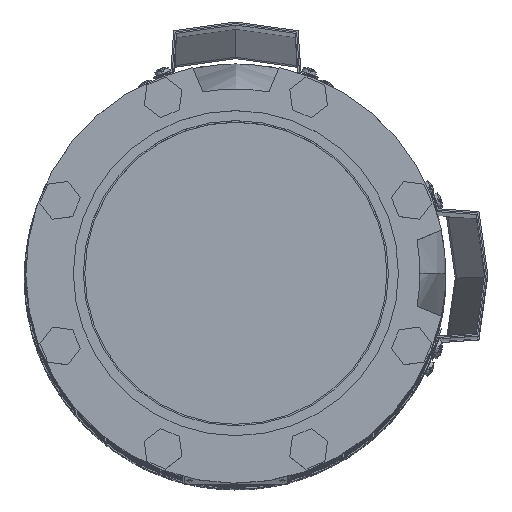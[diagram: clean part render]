
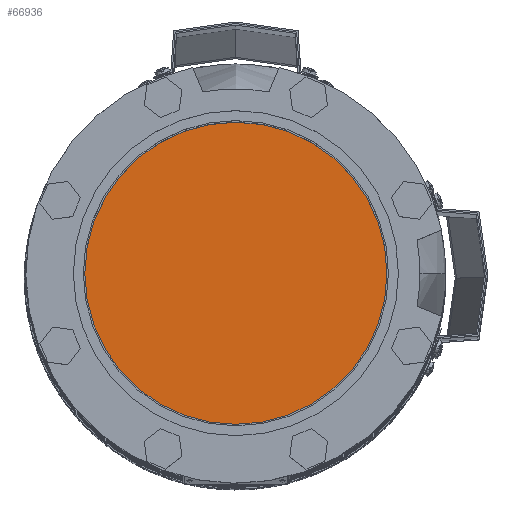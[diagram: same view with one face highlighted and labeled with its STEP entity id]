
A CAD part, top view. The second image highlights one B-rep face of the part: STEP entity #66936.
In plain terms, the highlighted planar face has unit normal (0, 0, 1) as drawn and (0, 1, 0) by its records, which use the part's own axes.
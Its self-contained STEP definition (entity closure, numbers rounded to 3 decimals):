
#628=CIRCLE('',#70542,102.5);
#629=CIRCLE('',#70543,102.5);
#16259=ORIENTED_EDGE('',*,*,#36523,.F.);
#16260=ORIENTED_EDGE('',*,*,#36524,.T.);
#36523=EDGE_CURVE('',#46655,#46656,#628,.T.);
#36524=EDGE_CURVE('',#46655,#46656,#629,.T.);
#46655=VERTEX_POINT('',#96551);
#46656=VERTEX_POINT('',#96552);
#54183=EDGE_LOOP('',(#16259,#16260));
#59046=FACE_BOUND('',#54183,.T.);
#63908=PLANE('',#70541);
#66936=ADVANCED_FACE('',(#59046),#63908,.T.);
#70541=AXIS2_PLACEMENT_3D('',#96549,#77103,#77104);
#70542=AXIS2_PLACEMENT_3D('',#96550,#77105,#77106);
#70543=AXIS2_PLACEMENT_3D('',#96553,#77107,#77108);
#77103=DIRECTION('',(0.,1.,0.));
#77104=DIRECTION('',(-1.,0.,0.));
#77105=DIRECTION('',(0.,-1.,0.));
#77106=DIRECTION('',(-1.,0.,0.));
#77107=DIRECTION('',(0.,1.,0.));
#77108=DIRECTION('',(-1.,0.,0.));
#96549=CARTESIAN_POINT('',(-109.56,216.5,0.));
#96550=CARTESIAN_POINT('',(0.,216.5,0.));
#96551=CARTESIAN_POINT('',(-102.5,216.5,0.));
#96552=CARTESIAN_POINT('',(102.5,216.5,0.));
#96553=CARTESIAN_POINT('',(0.,216.5,0.));
